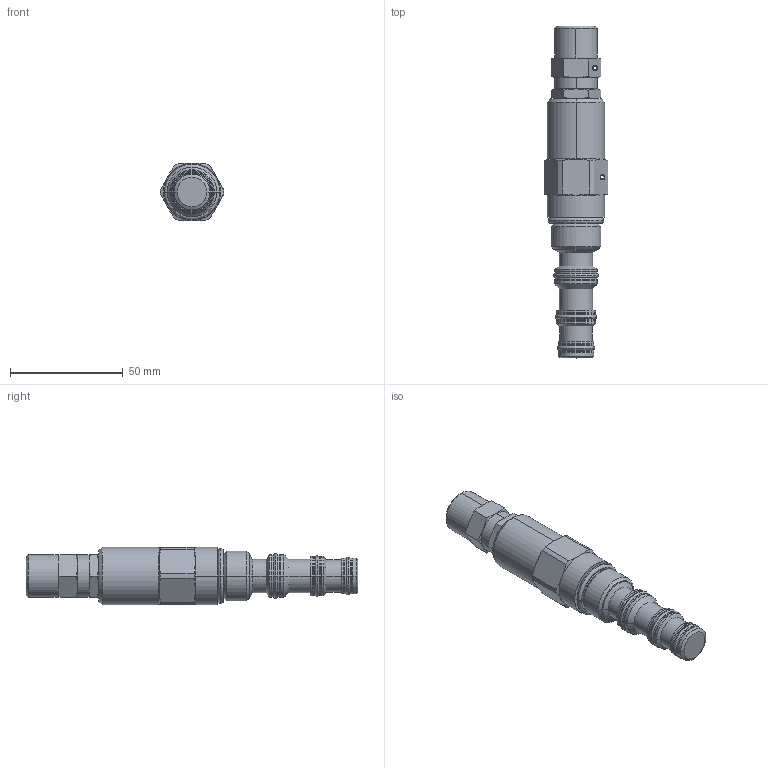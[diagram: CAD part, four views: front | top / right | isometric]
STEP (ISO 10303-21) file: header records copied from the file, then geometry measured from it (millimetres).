
FILE_DESCRIPTION((''),'2;1');
FILE_NAME('5424300_SW0004','2009-02-04T',('jcs'),(''),'PRO/ENGINEER BY PARAMETRIC TECHNOLOGY CORPORATION, 2008010','PRO/ENGINEER BY PARAMETRIC TECHNOLOGY CORPORATION, 2008010','');
FILE_SCHEMA(('CONFIG_CONTROL_DESIGN'));
Length unit declared in the file: inch
Products named in the file (1): 5424300_SW0004
Bounding box: 28.19 x 147.28 x 25.4 mm (x, y, z)
Volume: 51908.9 mm3; surface area: 14049.8 mm2
Topology: 5 solids, 5 shells, 253 faces, 533 edges, 310 vertices
Faces by surface type: cylinder 77, cone 50, plane 48, torus 46, revolution 32
Entity records: 7852 total; most frequent: CARTESIAN_POINT 2354, DIRECTION 1211, ORIENTED_EDGE 1066, EDGE_CURVE 533, AXIS2_PLACEMENT_3D 530, VERTEX_POINT 310, CIRCLE 309, EDGE_LOOP 285
